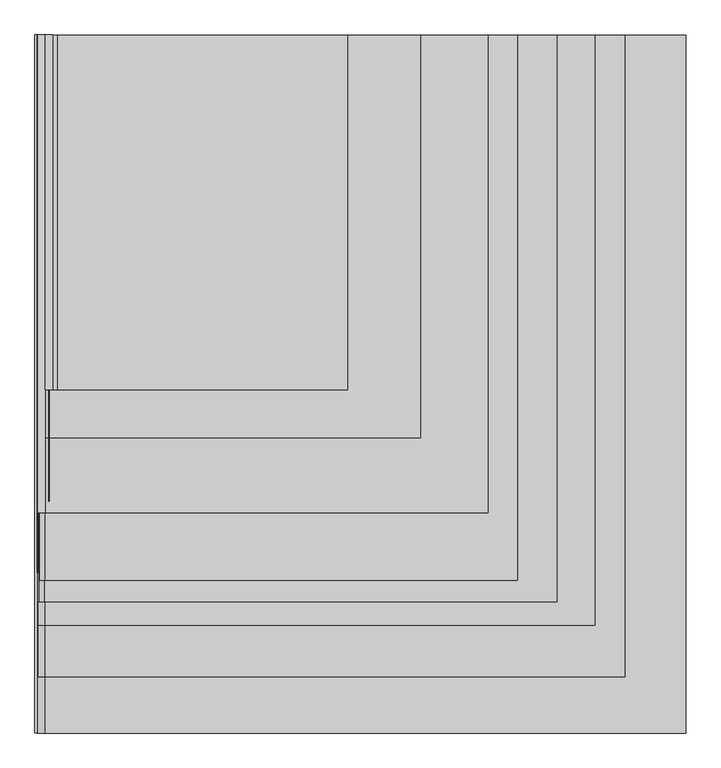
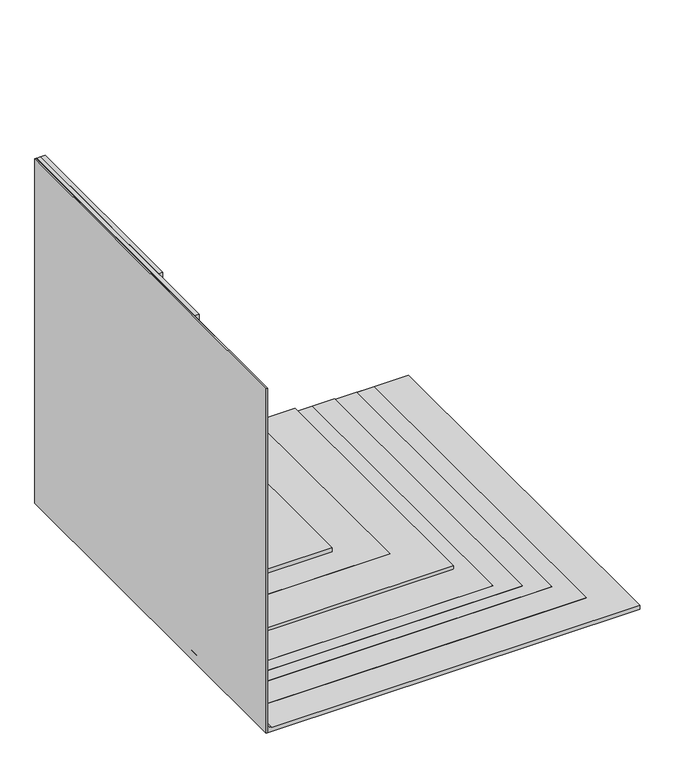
"""IFC4 building model written with IfcOpenShell, lengths in millimetres: proxy geometry, IMPER:IMPER:433934 : IMPER:IMPER:433934."""

from ifc_helpers import new_model, si_unit, point, frame, frame_2d, origin, place, context, project, spatial, polyline, circle_curve, trimmed, segment, composite_curve, outline, extrude, source, transform, mapped, element, save


def generic_models_7824ece7(model_context):
    return source(origin(), model_context, "Body", "SweptSolid", [
        extrude(outline(composite_curve([segment(trimmed(circle_curve(frame_2d((57.476202, -311.9704105)), 24.0), [point((56.7394814, -335.9591004))], [point((33.5018705, -313.0801074))], False, "CARTESIAN"), True, "CONTINUOUS"), segment(polyline([(33.5018705, -313.0801074), (33.5018705, 1553.7831106), (34.5018705, 1553.7831106), (34.5018705, -313.0567301)]), True, "CONTINUOUS"), segment(trimmed(circle_curve(frame_2d((57.476202, -311.9704105)), 23.0), [point((34.5018705, -313.0567301))], [point((56.7549967, -334.9591004))], True, "CARTESIAN"), True, "CONTINUOUS"), segment(polyline([(56.7549967, -334.9591004), (162.5018705, -334.9591004), (162.5018705, -335.9591004), (56.7394814, -335.9591004)]), True, "CONTINUOUS")], self_intersect=False)), frame((0.0, -2004.9615793, 0.0), z_axis=(0.0, 1.0, 0.0), x_axis=(0.0, 0.0, 1.0)), (0.0, 0.0, 1.0), 2150.8315988),
        extrude(outline(composite_curve([segment(trimmed(circle_curve(frame_2d((57.476202, -311.9704105)), 29.0), [point((56.6663512, -340.9591004))], [point((28.5018705, -313.1902924))], False, "CARTESIAN"), True, "CONTINUOUS"), segment(polyline([(28.5018705, -313.1902924), (28.5018705, 1858.7456845), (29.5018705, 1858.7456845), (29.5018705, -313.1690659)]), True, "CONTINUOUS"), segment(trimmed(circle_curve(frame_2d((57.476202, -311.9704105)), 28.0), [point((29.5018705, -313.1690659))], [point((56.6804394, -339.9591004))], True, "CARTESIAN"), True, "CONTINUOUS"), segment(polyline([(56.6804394, -339.9591004), (166.5018705, -339.9591004), (166.5018705, -340.9591004), (56.6663512, -340.9591004)]), True, "CONTINUOUS")], self_intersect=False)), frame((0.0, -2183.8835924, 0.0), z_axis=(0.0, 1.0, 0.0), x_axis=(0.0, 0.0, 1.0)), (0.0, 0.0, 1.0), 2329.7536119),
        extrude(outline(composite_curve([segment(polyline([(58.9105863, -310.9591004), (2497.4652065, -310.9591004), (2497.4652065, -340.9704105), (167.5018705, -340.9704105), (167.5018705, -339.5448868), (163.5018705, -335.5448868), (163.5018705, -333.9591004), (56.7549967, -333.9591004), (56.7549967, -334.9591004)]), True, "CONTINUOUS"), segment(trimmed(circle_curve(frame_2d((57.476202, -311.9704105)), 23.0), [point((56.7549967, -334.9591004))], [point((34.5018705, -313.0567301))], False, "CARTESIAN"), True, "CONTINUOUS"), segment(polyline([(34.5018705, -313.0567301), (34.5018705, 1436.6324388), (58.9105863, 1436.6324388), (58.9105863, -310.9591004)]), True, "CONTINUOUS")], self_intersect=False)), frame((0.0, -1739.2820095, 0.0), z_axis=(0.0, 1.0, 0.0), x_axis=(0.0, 0.0, 1.0)), (0.0, 0.0, 1.0), 1885.152029),
        extrude(outline(polyline([(166.5018705, -339.9591004), (162.5018705, -335.9591004), (162.5018705, -334.9591004), (56.7549967, -334.9591004), (56.7549967, -333.9591004), (163.5018705, -333.9591004), (163.5018705, -335.5448868), (167.5018705, -339.5448868), (167.5018705, -340.9704105), (2497.476202, -340.9704105), (2497.476202, -341.9704105), (166.5018705, -341.9704105), (166.5018705, -339.9591004)])), frame((0.0, -1975.1610544, 0.0), z_axis=(0.0, 1.0, 0.0), x_axis=(0.0, 0.0, 1.0)), (0.0, 0.0, 1.0), 2121.0310739),
        extrude(outline(polyline([(-351.9704105, 145.8700195), (-341.9704105, 145.8700195), (-341.9704105, -2608.4880222), (-351.9704105, -2608.4880222), (-351.9704105, 145.8700195)])), frame((0.0, 0.0, -2.523798), z_axis=(0.0, 0.0, 1.0), x_axis=(1.0, 0.0, 0.0)), (0.0, 0.0, 1.0), 2500.0),
        extrude(outline(composite_curve([segment(polyline([(-311.9704105, 27.476202), (2218.0295895, 27.476202), (2218.0295895, -2.523798), (-341.9704105, -2.523798), (-341.9704105, 57.476202)]), True, "CONTINUOUS"), segment(trimmed(circle_curve(frame_2d((-311.9704105, 57.476202)), 30.0), [point((-341.9704105, 57.476202))], [point((-311.9704105, 27.476202))], True, "CARTESIAN"), True, "CONTINUOUS")], self_intersect=False)), frame((0.0, 145.8700195, 0.0), z_axis=(0.0, -1.0, 0.0), x_axis=(1.0, 0.0, 0.0)), (0.0, 0.0, 1.0), 2754.3580417),
        extrude(outline(composite_curve([segment(polyline([(56.6663512, -340.9591004), (166.5018705, -340.9591004), (166.5018705, -341.9704105), (57.476202, -341.9704105)]), True, "CONTINUOUS"), segment(trimmed(circle_curve(frame_2d((57.476202, -311.9704105)), 30.0), [point((57.476202, -341.9704105))], [point((27.476202, -311.9704105))], False, "CARTESIAN"), True, "CONTINUOUS"), segment(polyline([(27.476202, -311.9704105), (27.476202, 1978.0295895), (28.5018705, 1978.0295895), (28.5018705, -313.1902924)]), True, "CONTINUOUS"), segment(trimmed(circle_curve(frame_2d((57.476202, -311.9704105)), 29.0), [point((28.5018705, -313.1902924))], [point((56.6663512, -340.9591004))], True, "CARTESIAN"), True, "CONTINUOUS")], self_intersect=False)), frame((0.0, -2385.98401, 0.0), z_axis=(0.0, 1.0, 0.0), x_axis=(0.0, 0.0, 1.0)), (0.0, 0.0, 1.0), 2531.8540295),
        extrude(outline(composite_curve([segment(polyline([(56.7394814, -335.9591004), (162.5018705, -335.9591004), (166.5018705, -339.9591004), (56.6804394, -339.9591004)]), True, "CONTINUOUS"), segment(trimmed(circle_curve(frame_2d((57.476202, -311.9704105)), 28.0), [point((56.6804394, -339.9591004))], [point((29.5018705, -313.1690659))], False, "CARTESIAN"), True, "CONTINUOUS"), segment(polyline([(29.5018705, -313.1690659), (29.5018705, 1708.8493946), (33.5018705, 1708.8493946), (33.5018705, -313.0801074)]), True, "CONTINUOUS"), segment(trimmed(circle_curve(frame_2d((57.476202, -311.9704105)), 24.0), [point((33.5018705, -313.0801074))], [point((56.7394814, -335.9591004))], True, "CARTESIAN"), True, "CONTINUOUS")], self_intersect=False)), frame((0.0, -2091.0492051, 0.0), z_axis=(0.0, 1.0, 0.0), x_axis=(0.0, 0.0, 1.0)), (0.0, 0.0, 1.0), 2236.9192246),
        extrude(outline(polyline([(59.9105863, -310.9591004), (59.9105863, 881.9874342), (89.9105863, 881.9874342), (89.9105863, -262.4331394), (77.3105863, -262.4331394), (77.3105863, -280.9591004), (89.9105863, -280.9591004), (2498.8849178, -280.9591004), (2498.8849178, -310.9591004), (59.9105863, -310.9591004)])), frame((0.0, -1254.1299805, 0.0), z_axis=(0.0, 1.0, 0.0), x_axis=(0.0, 0.0, 1.0)), (0.0, 0.0, 1.0), 1400.0),
        extrude(outline(polyline([(-296.4591004, 145.8700195), (-295.4591004, 145.8700195), (-295.4591004, -1694.1090661), (-296.4591004, -1694.1090661), (-296.4591004, 145.8700195)])), frame((0.0, 0.0, 89.9105863), z_axis=(0.0, 0.0, 1.0), x_axis=(1.0, 0.0, 0.0)), (0.0, 0.0, 1.0), 400.0),
        extrude(outline(polyline([(1170.3053101, 145.8700195), (1170.3053101, -1443.4626514), (-310.9591004, -1443.4626514), (-310.9591004, 145.8700195), (1170.3053101, 145.8700195)])), frame((0.0, 0.0, 58.9105863), z_axis=(0.0, 0.0, 1.0), x_axis=(1.0, 0.0, 0.0)), (0.0, 0.0, 1.0), 1.0),
        extrude(outline(polyline([(-262.4331394, 145.8700195), (-262.4331394, -1254.1299805), (-280.9591004, -1254.1299805), (-280.9591004, 145.8700195), (-262.4331394, 145.8700195)])), frame((0.0, 0.0, 77.3105863), z_axis=(0.0, 0.0, 1.0), x_axis=(1.0, 0.0, 0.0)), (0.0, 0.0, 1.0), 12.6),
    ])


if __name__ == "__main__":
    model = new_model("IFC4")
    model_context = context("Model", 3, world=origin())
    ifc_project = project(units=[si_unit("LENGTHUNIT", "METRE", prefix="MILLI")], contexts=[model_context])
    site = spatial("IfcSite", under=ifc_project)
    building = spatial("IfcBuilding", under=site)
    placement = place(None, origin())
    generic_models_shape = generic_models_7824ece7(model_context)
    element("IfcBuildingElementProxy", 1, Name="IMPER:IMPER:433934 : IMPER:IMPER:433934", ObjectType="IMPER:IMPER:433934 : IMPER:IMPER:433934", at=placement, inside=building, context=model_context, shape_type="MappedRepresentation", body=[
        mapped(generic_models_shape, transform((0.0, 0.0, 0.0), x_axis=(1.0, 0.0, 0.0), y_axis=(0.0, 1.0, 0.0), z_axis=(0.0, 0.0, 1.0))),
    ])
    save(model, "model.ifc")
